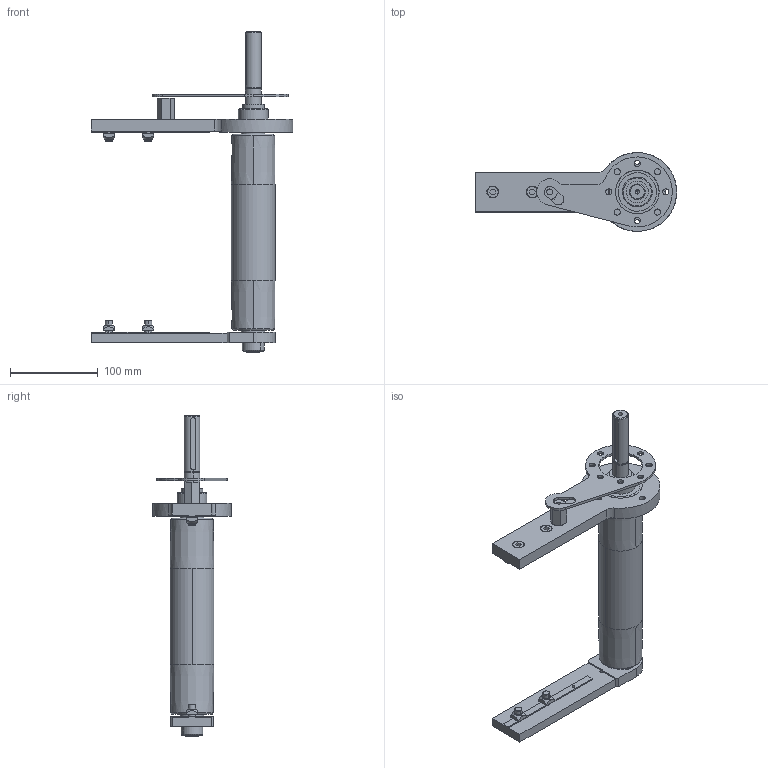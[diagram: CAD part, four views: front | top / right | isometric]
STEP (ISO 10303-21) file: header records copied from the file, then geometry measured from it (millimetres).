
FILE_DESCRIPTION (( 'STEP AP203' ), '1' );
FILE_NAME ('084.050.KD.44.200.step', '2014-02-18T11:35:30', ( '' ), ( '' ), 'SwSTEP 2.0', 'SolidWorks 2012', '' );
FILE_SCHEMA (( 'CONFIG_CONTROL_DESIGN' ));
Length unit declared in the file: millimetre
Products named in the file (13): 084.050.KD.44.200; 084.811.002; 084.802.034_084.802.034; 084.807.001_084.807.001; 084.807.005; 084.802.027; 084.302.000 DADI ALUSIC 13x13_084.302.004; 084.301.000 VITI ALUSIC_084.301.003; 084.810.001; 084.815.103_Default<A macchina>; 084.811.004; 084.802.017_084.802.017; 084.807.002_084.807.002
Assembly tree (19 placements, depth 2):
  084.050.KD.44.200
    084.807.002_084.807.002
    084.802.017_084.802.017
    084.811.004
    084.815.103_Default<A macchina>
    084.810.001  x2
    084.301.000 VITI ALUSIC_084.301.003  x4
    084.302.000 DADI ALUSIC 13x13_084.302.004  x4
    084.802.027
    084.807.005
    084.807.001_084.807.001
    084.802.034_084.802.034
    084.811.002
Bounding box: 230 x 90 x 366 mm (x, y, z)
Volume: 519237.2 mm3; surface area: 244083.8 mm2
Topology: 24 solids, 25 shells, 598 faces, 1500 edges, 973 vertices
Faces by surface type: plane 238, cylinder 233, torus 68, cone 50, sphere 9
Entity records: 16240 total; most frequent: CARTESIAN_POINT 2956, DIRECTION 2667, ORIENTED_EDGE 2320, EDGE_CURVE 1160, AXIS2_PLACEMENT_3D 1075, VERTEX_POINT 754, CIRCLE 593, EDGE_LOOP 558
